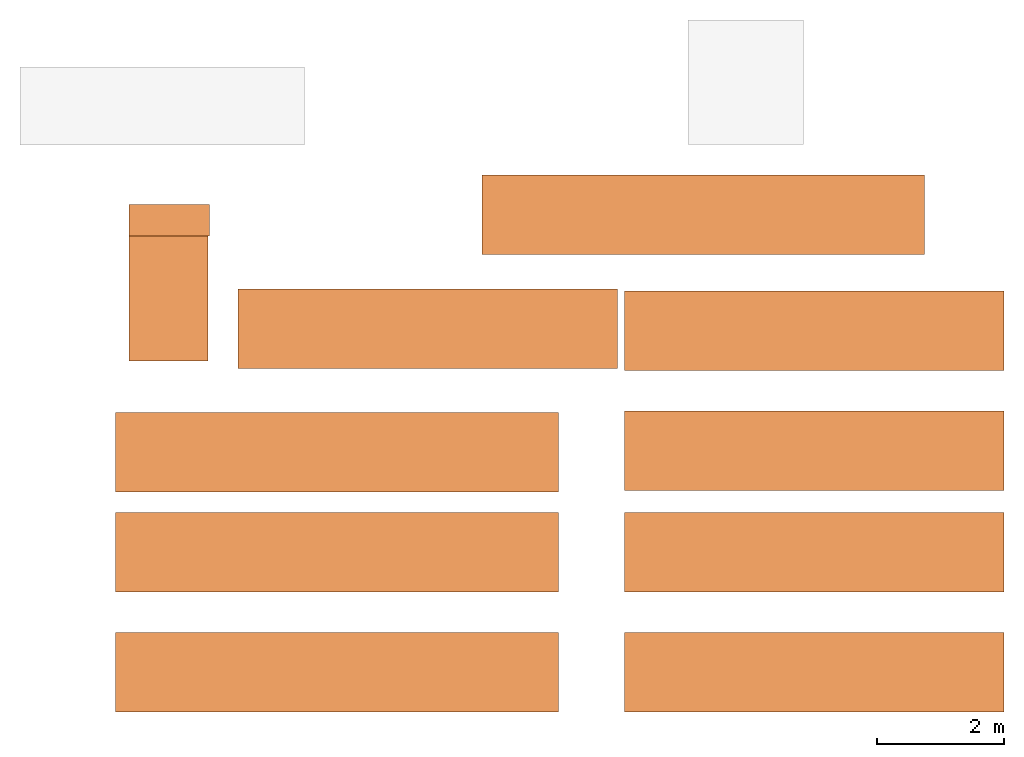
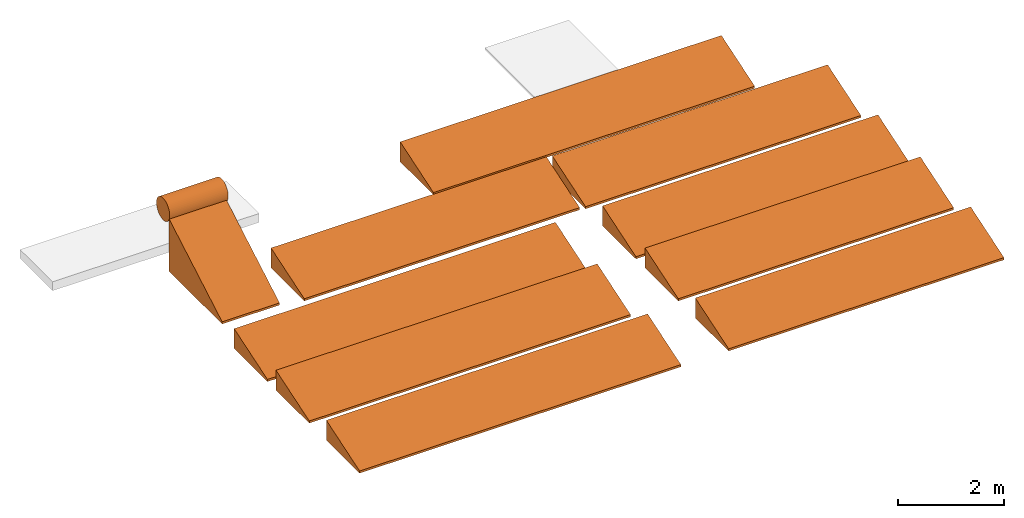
# One storey, part 2 of 2: 11 proxies.
"""IFC2X3 building model written with IfcOpenShell, lengths in millimetres."""

import ifcopenshell
import ifcopenshell.guid

model = None  # the IFC model being written
_history = None  # IfcOwnerHistory: only IFC2X3 demands one
_inside = {}  # id of a spatial element -> (the spatial element, [elements in it])
_under = {}  # id of a project, library or spatial element -> (it, [spatial elements below it])
_declared = {}  # id of a project -> (the project, [libraries it declares])
_typed = {}  # id of a type object -> (the type object, [elements of that type])
_made_of = {}  # id of a material, layer set ... -> (it, [elements and type objects made of it])


def new_model(schema):
    """Start an empty IFC model of exactly this schema.

    Asked for "IFC4X3", IfcOpenShell would pick the latest addendum, in which some entities
    have other attributes; the version numbers below select the first issue.
    IFC2X3 requires an IfcOwnerHistory on every rooted entity: one is made here for all.
    """
    global model, _history
    if schema == "IFC4X3":
        model = ifcopenshell.file(schema_version=(4, 3, 0, 0))
    else:
        model = ifcopenshell.file(schema=schema)
    _inside.clear()
    _under.clear()
    _declared.clear()
    _typed.clear()
    _made_of.clear()
    _history = None
    if model.schema == "IFC2X3":
        org = make("IfcOrganization", Name="unknown")
        user = make(
            "IfcPersonAndOrganization",
            ThePerson=make("IfcPerson", FamilyName="unknown"),
            TheOrganization=org,
        )
        app = make(
            "IfcApplication",
            ApplicationDeveloper=org,
            Version="unknown",
            ApplicationFullName="unknown",
            ApplicationIdentifier="unknown",
        )
        _history = make(
            "IfcOwnerHistory",
            OwningUser=user,
            OwningApplication=app,
            ChangeAction="ADDED",
            CreationDate=0,
        )
    return model


def make(cls, **values):
    """One entity of the class cls with the attributes given. An attribute that is None is left unset."""
    return model.create_entity(
        cls, **{name: value for name, value in values.items() if value is not None}
    )


def entity(cls, *values):
    """Any entity or typed value of the class cls, its attributes in the order of the schema. None: left unset."""
    e = model.create_entity(cls)
    for i, value in enumerate(values):
        if value is not None:
            e[i] = value
    return e


def rooted(cls, **values):
    """An entity with a GlobalId (a new one), such as an element, a storey or a relation."""
    return make(cls, GlobalId=ifcopenshell.guid.new(), OwnerHistory=_history, **values)


def si_unit(unit_type, name, prefix=None):
    """IfcSIUnit, for example si_unit("LENGTHUNIT", "METRE", prefix="MILLI")."""
    return make("IfcSIUnit", UnitType=unit_type, Prefix=prefix, Name=name)


def converted_unit(unit_type, name, factor, base, dimensions=None, offset=None):
    """IfcConversionBasedUnit, such as the inch: factor (a typed value) times the base unit."""
    return make(
        "IfcConversionBasedUnit"
        if offset is None
        else "IfcConversionBasedUnitWithOffset",
        ConversionOffset=offset,
        Dimensions=None
        if dimensions is None
        else entity("IfcDimensionalExponents", *dimensions),
        UnitType=unit_type,
        Name=name,
        ConversionFactor=make(
            "IfcMeasureWithUnit", ValueComponent=factor, UnitComponent=base
        ),
    )


def derived_unit(unit_type, elements):
    """IfcDerivedUnit: a product of units, each with its exponent."""
    return make(
        "IfcDerivedUnit",
        Elements=[
            make("IfcDerivedUnitElement", Unit=unit, Exponent=power)
            for unit, power in elements
        ],
        UnitType=unit_type,
    )


def assignment(units):
    """IfcUnitAssignment: the units of a project."""
    return None if units is None else make("IfcUnitAssignment", Units=units)


def point(xyz):
    """IfcCartesianPoint."""
    return None if xyz is None else make("IfcCartesianPoint", Coordinates=xyz)


def direction(xyz):
    """IfcDirection."""
    return None if xyz is None else make("IfcDirection", DirectionRatios=xyz)


def frame(location, z_axis=None, x_axis=None):
    """IfcAxis2Placement3D, a coordinate frame: its origin and axes. An axis left out is left unset."""
    return make(
        "IfcAxis2Placement3D",
        Location=point(location),
        Axis=direction(z_axis),
        RefDirection=direction(x_axis),
    )


def frame_2d(location, x_axis=None):
    """IfcAxis2Placement2D, a coordinate frame in the plane: its origin and x axis."""
    return make(
        "IfcAxis2Placement2D", Location=point(location), RefDirection=direction(x_axis)
    )


def origin():
    """The frame at (0, 0, 0) with its axes left unset."""
    return frame((0.0, 0.0, 0.0))


def place(relative_to, where):
    """IfcLocalPlacement: puts the frame where relative to a parent placement (None: the world)."""
    return make(
        "IfcLocalPlacement", PlacementRelTo=relative_to, RelativePlacement=where
    )


def context(
    kind, dimensions, precision=None, world=None, true_north=None, identifier=None
):
    """IfcGeometricRepresentationContext, for example the 3D "Model" context."""
    return make(
        "IfcGeometricRepresentationContext",
        ContextIdentifier=identifier,
        ContextType=kind,
        CoordinateSpaceDimension=dimensions,
        Precision=precision,
        WorldCoordinateSystem=world,
        TrueNorth=true_north,
    )


def subcontext(parent, identifier, kind, view, scale=None):
    """IfcGeometricRepresentationSubContext, for example "Body" below "Model"."""
    return make(
        "IfcGeometricRepresentationSubContext",
        ContextIdentifier=identifier,
        ContextType=kind,
        ParentContext=parent,
        TargetScale=scale,
        TargetView=view,
    )


def project(units=None, contexts=None):
    """IfcProject with its units and contexts."""
    return rooted(
        "IfcProject",
        Name="project",
        RepresentationContexts=contexts,
        UnitsInContext=assignment(units),
    )


def spatial(cls, under=None, at=None, **own):
    """A site, building, storey or space (cls), placed at a placement, below another one or the project."""
    s = rooted(cls, ObjectPlacement=at, **own)
    if under is not None:
        _under.setdefault(under.id(), (under, []))[1].append(s)
    return s


def polyline(points):
    """IfcPolyline through the points."""
    return make("IfcPolyline", Points=[point(p) for p in points])


def profile(cls, at=None, kind="AREA", **sizes):
    """A parametric profile (cls). Its sizes go by their IFC names, for example OverallWidth=200.0."""
    return make(cls, ProfileType=kind, Position=at, **sizes)


def circle(**sizes):
    """IfcCircleProfileDef."""
    return profile("IfcCircleProfileDef", **sizes)


def outline(outer, holes=None, kind="AREA"):
    """IfcArbitraryClosedProfileDef: a profile drawn as a closed curve; with holes, ...WithVoids."""
    if holes is None:
        return make("IfcArbitraryClosedProfileDef", ProfileType=kind, OuterCurve=outer)
    return make(
        "IfcArbitraryProfileDefWithVoids",
        ProfileType=kind,
        OuterCurve=outer,
        InnerCurves=holes,
    )


def extrude(swept, where, along, depth):
    """IfcExtrudedAreaSolid: the profile swept, set in the frame where, extruded along a direction by depth."""
    return make(
        "IfcExtrudedAreaSolid",
        SweptArea=swept,
        Position=where,
        ExtrudedDirection=direction(along),
        Depth=depth,
    )


def shape(context_of_items, identifier, shape_type, items):
    """IfcShapeRepresentation: the items that make up one representation, for example the "Body"."""
    return make(
        "IfcShapeRepresentation",
        ContextOfItems=context_of_items,
        RepresentationIdentifier=identifier,
        RepresentationType=shape_type,
        Items=items,
    )


def source(mapping_origin, context_of_items, identifier, shape_type, items):
    """IfcRepresentationMap: a shape defined once, which mapped items show again and again."""
    return make(
        "IfcRepresentationMap",
        MappingOrigin=mapping_origin,
        MappedRepresentation=shape(context_of_items, identifier, shape_type, items),
    )


def transform(
    local_origin,
    x_axis=None,
    y_axis=None,
    z_axis=None,
    scale=None,
    scale2=None,
    scale3=None,
    uniform=True,
):
    """IfcCartesianTransformationOperator3D, or its non-uniform kind. x_axis, y_axis, z_axis: its Axis1, 2, 3."""
    if uniform:
        return make(
            "IfcCartesianTransformationOperator3D",
            Axis1=direction(x_axis),
            Axis2=direction(y_axis),
            LocalOrigin=point(local_origin),
            Scale=scale,
            Axis3=direction(z_axis),
        )
    return make(
        "IfcCartesianTransformationOperator3DnonUniform",
        Axis1=direction(x_axis),
        Axis2=direction(y_axis),
        LocalOrigin=point(local_origin),
        Scale=scale,
        Axis3=direction(z_axis),
        Scale2=scale2,
        Scale3=scale3,
    )


def mapped(mapping_source, mapping_target):
    """IfcMappedItem: shows the shape of a source again, moved by a transform."""
    return make(
        "IfcMappedItem", MappingSource=mapping_source, MappingTarget=mapping_target
    )


def material(Name=None, Category=None):
    """IfcMaterial."""
    return make("IfcMaterial", Name=Name, Category=Category)


def made_of(thing, what):
    """Note that an element or type object is made of a material, layer set ...; save() writes the relation."""
    if what is not None:
        _made_of.setdefault(what.id(), (what, []))[1].append(thing)
    return thing


def type_object(cls, material=None, **own):
    """A type object (cls), such as IfcWallType, which elements share."""
    return made_of(rooted(cls, **own), material)


def type_shapes(of_type, sources):
    """Give a type object the sources (RepresentationMaps) that its elements show as mapped items."""
    of_type.RepresentationMaps = sources


def element(
    cls,
    number,
    at=None,
    inside=None,
    cuts=None,
    type_object=None,
    material=None,
    context=None,
    identifier="Body",
    shape_type=None,
    held_by="IfcProductDefinitionShape",
    body=None,
    shapes=None,
    **own,
):
    """One element of the class cls, such as IfcWall. Its Tag is "e" and its number.

    at: its placement. inside: the storey or other place that contains it. cuts: it is an
    opening in that element (IfcRelVoidsElement). A single representation is given by context,
    identifier, shape_type and body (its items); several are given by shapes. held_by: the class
    of the entity that holds the representations. save() writes the other relations.
    """
    e = rooted(cls, Tag="e%d" % number, ObjectPlacement=at, **own)
    if body is not None:
        shapes = [shape(context, identifier, shape_type, body)]
    if shapes is not None:
        e.Representation = make(held_by, Representations=shapes)
    if inside is not None:
        _inside.setdefault(inside.id(), (inside, []))[1].append(e)
    if cuts is not None:
        rooted(
            "IfcRelVoidsElement", RelatingBuildingElement=cuts, RelatedOpeningElement=e
        )
    if type_object is not None:
        _typed.setdefault(type_object.id(), (type_object, []))[1].append(e)
    return made_of(e, material)


def aggregate(whole, parts):
    """IfcRelAggregates: a whole, such as a stair, and the parts it consists of."""
    return rooted("IfcRelAggregates", RelatingObject=whole, RelatedObjects=parts)


def save(model, path):
    """Write the relations noted so far, then the file.

    IfcRelAggregates (storeys below a building ...), IfcRelContainedInSpatialStructure (elements
    in a storey), IfcRelDefinesByType, IfcRelAssociatesMaterial and IfcRelDeclares: one each for
    every whole, place, type object, material and project.
    """
    for whole, parts in _under.values():
        aggregate(whole, parts)
    for where, things in _inside.values():
        rooted(
            "IfcRelContainedInSpatialStructure",
            RelatedElements=things,
            RelatingStructure=where,
        )
    for kind, things in _typed.values():
        rooted("IfcRelDefinesByType", RelatedObjects=things, RelatingType=kind)
    for what, things in _made_of.values():
        rooted("IfcRelAssociatesMaterial", RelatedObjects=things, RelatingMaterial=what)
    for by, libraries in _declared.values():
        rooted("IfcRelDeclares", RelatingContext=by, RelatedDefinitions=libraries)
    model.write(path)


model = new_model("IFC2X3")

# Units and contexts
model_context = context("Model", 3, precision=0.01, world=origin(), true_north=direction((6.123031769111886e-17, 1.0)))
body_context = subcontext(model_context, "Body", "Model", "MODEL_VIEW")
ifc_project = project(units=[si_unit("LENGTHUNIT", "METRE", prefix="MILLI"), si_unit("AREAUNIT", "SQUARE_METRE"), si_unit("VOLUMEUNIT", "CUBIC_METRE"), converted_unit("PLANEANGLEUNIT", "DEGREE", entity("IfcRatioMeasure", 0.017453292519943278), si_unit("PLANEANGLEUNIT", "RADIAN"), dimensions=[0, 0, 0, 0, 0, 0, 0]), si_unit("MASSUNIT", "GRAM", prefix="KILO"), derived_unit("MASSDENSITYUNIT", [(si_unit("MASSUNIT", "GRAM", prefix="KILO"), 1), (si_unit("LENGTHUNIT", "METRE"), -3)]), derived_unit("MOMENTOFINERTIAUNIT", [(si_unit("LENGTHUNIT", "METRE"), 4)]), si_unit("TIMEUNIT", "SECOND"), si_unit("FREQUENCYUNIT", "HERTZ"), si_unit("THERMODYNAMICTEMPERATUREUNIT", "DEGREE_CELSIUS"), derived_unit("THERMALTRANSMITTANCEUNIT", [(si_unit("MASSUNIT", "GRAM", prefix="KILO"), 1), (si_unit("THERMODYNAMICTEMPERATUREUNIT", "KELVIN"), -1), (si_unit("TIMEUNIT", "SECOND"), -3)]), derived_unit("VOLUMETRICFLOWRATEUNIT", [(si_unit("LENGTHUNIT", "METRE"), 3), (si_unit("TIMEUNIT", "SECOND"), -1)]), derived_unit("MASSFLOWRATEUNIT", [(si_unit("MASSUNIT", "GRAM", prefix="KILO"), 1), (si_unit("TIMEUNIT", "SECOND"), -1)]), derived_unit("ROTATIONALFREQUENCYUNIT", [(si_unit("TIMEUNIT", "SECOND"), -1)]), si_unit("ELECTRICCURRENTUNIT", "AMPERE"), si_unit("ELECTRICVOLTAGEUNIT", "VOLT"), si_unit("POWERUNIT", "WATT"), si_unit("FORCEUNIT", "NEWTON", prefix="KILO"), si_unit("ILLUMINANCEUNIT", "LUX"), si_unit("LUMINOUSFLUXUNIT", "LUMEN"), si_unit("LUMINOUSINTENSITYUNIT", "CANDELA"), derived_unit("USERDEFINED", [(si_unit("MASSUNIT", "GRAM", prefix="KILO"), -1), (si_unit("LENGTHUNIT", "METRE"), -2), (si_unit("TIMEUNIT", "SECOND"), 3), (si_unit("LUMINOUSFLUXUNIT", "LUMEN"), 1)]), derived_unit("SOUNDPOWERUNIT", [(si_unit("MASSUNIT", "GRAM", prefix="KILO"), 1), (si_unit("LENGTHUNIT", "METRE"), 2), (si_unit("TIMEUNIT", "SECOND"), -3)]), derived_unit("SOUNDPRESSUREUNIT", [(si_unit("MASSUNIT", "GRAM", prefix="KILO"), 1), (si_unit("LENGTHUNIT", "METRE"), -1), (si_unit("TIMEUNIT", "SECOND"), -2)]), derived_unit("LINEARVELOCITYUNIT", [(si_unit("LENGTHUNIT", "METRE"), 1), (si_unit("TIMEUNIT", "SECOND"), -1)]), si_unit("PRESSUREUNIT", "PASCAL"), derived_unit("USERDEFINED", [(si_unit("LENGTHUNIT", "METRE"), -2), (si_unit("MASSUNIT", "GRAM", prefix="KILO"), 1), (si_unit("TIMEUNIT", "SECOND"), -2)]), derived_unit("LINEARFORCEUNIT", [(si_unit("MASSUNIT", "GRAM", prefix="KILO"), 1), (si_unit("LENGTHUNIT", "METRE"), 1), (si_unit("TIMEUNIT", "SECOND"), -2), (si_unit("LENGTHUNIT", "METRE"), -1)]), derived_unit("PLANARFORCEUNIT", [(si_unit("MASSUNIT", "GRAM", prefix="KILO"), 1), (si_unit("LENGTHUNIT", "METRE"), 1), (si_unit("TIMEUNIT", "SECOND"), -2), (si_unit("LENGTHUNIT", "METRE"), -2)])], contexts=[model_context])

# Site, building, storey
site_placement = place(None, origin())
site = spatial("IfcSite", under=ifc_project, at=site_placement, Name="Default", CompositionType="ELEMENT")
building_placement = place(site_placement, origin())
building = spatial("IfcBuilding", under=site, at=building_placement, CompositionType="ELEMENT")
storey_placement = place(building_placement, frame((0.0, 0.0, 6650.0)))
storey = spatial("IfcBuildingStorey", under=building, at=storey_placement, Name="Top", CompositionType="ELEMENT", Elevation=6650.0)

# Proxies
ifc_material = material(Name="<Unnamed>")
building_element_proxy_type_1 = type_object("IfcBuildingElementProxyType", Name="PV Inclined Modules v8:7 Module:7 Module : PV Inclined Modules v8:7 Module", PredefinedType="NOTDEFINED", material=ifc_material)
shared_shape_1 = source(origin(), body_context, "Body", "SweptSolid", [
    extrude(outline(polyline([(77.10600524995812, -628.5000000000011), (127.1060052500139, -628.5000000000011), (127.1060052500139, 628.5000000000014), (-331.3180157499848, 628.5000000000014), (77.10600524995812, -628.5000000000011)])), frame((-8757.355778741, -3054.7318677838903, 6777.1060052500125), z_axis=(1.0, 0.0, 0.0), x_axis=(0.0, 0.0, -1.0)), (0.0, 0.0, 1.0), 7000.000000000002),
])
type_shapes(building_element_proxy_type_1, [shared_shape_1])
proxy_1_placement = place(storey_placement, frame((0.0, 0.0, -6650.0)))
element("IfcBuildingElementProxy", 1, at=proxy_1_placement, inside=storey, type_object=building_element_proxy_type_1, material=ifc_material, Name="PV Inclined Modules v8:7 Module:7 Module : PV Inclined Modules v8:7 Module:7 Module:7 Module : PV Inclined Modules v8:7 Module : PV Inclined Modules v8:7 Module:7 Module : PV Inclined Modules v8:7 Module", ObjectType="PV Inclined Modules v8:7 Module:7 Module : PV Inclined Modules v8:7 Module:7 Module:7 Module : PV Inclined Modules v8:7 Module : PV Inclined Modules v8:7 Module:7 Module : PV Inclined Modules v8:7 Module", context=body_context, shape_type="MappedRepresentation", body=[
    mapped(shared_shape_1, transform((0.0, 0.0, 0.0), scale=1.0)),
])
building_element_proxy_type_2 = type_object("IfcBuildingElementProxyType", Name="PV Inclined Modules v8:6 Module:6 Module : PV Inclined Modules v8:6 Module", PredefinedType="NOTDEFINED", material=ifc_material)
shared_shape_2 = source(origin(), body_context, "Body", "SweptSolid", [
    extrude(outline(polyline([(77.10600524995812, -628.5000000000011), (127.1060052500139, -628.5000000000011), (127.1060052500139, 628.5000000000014), (-331.3180157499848, 628.5000000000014), (77.10600524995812, -628.5000000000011)])), frame((-716.542295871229, -3054.7318677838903, 6777.1060052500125), z_axis=(1.0, 0.0, 0.0), x_axis=(0.0, 0.0, -1.0)), (0.0, 0.0, 1.0), 6000.0),
])
type_shapes(building_element_proxy_type_2, [shared_shape_2])
proxy_2_placement = place(storey_placement, frame((0.0, 0.0, -6650.0)))
element("IfcBuildingElementProxy", 2, at=proxy_2_placement, inside=storey, type_object=building_element_proxy_type_2, material=ifc_material, Name="PV Inclined Modules v8:6 Module:6 Module : PV Inclined Modules v8:6 Module:6 Module:6 Module : PV Inclined Modules v8:6 Module : PV Inclined Modules v8:6 Module:6 Module : PV Inclined Modules v8:6 Module", ObjectType="PV Inclined Modules v8:6 Module:6 Module : PV Inclined Modules v8:6 Module:6 Module:6 Module : PV Inclined Modules v8:6 Module : PV Inclined Modules v8:6 Module:6 Module : PV Inclined Modules v8:6 Module", context=body_context, shape_type="MappedRepresentation", body=[
    mapped(shared_shape_2, transform((0.0, 0.0, 0.0), scale=1.0)),
])
building_element_proxy_type_3 = type_object("IfcBuildingElementProxyType", Name="PV Inclined Modules v8:7 Module:7 Module : PV Inclined Modules v8:7 Module", PredefinedType="NOTDEFINED", material=ifc_material)
shared_shape_3 = source(origin(), body_context, "Body", "SweptSolid", [
    extrude(outline(polyline([(77.1060052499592, -628.5000000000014), (127.1060052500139, -628.5000000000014), (127.1060052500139, 628.5000000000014), (-331.3180157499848, 628.5000000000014), (77.1060052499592, -628.5000000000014)])), frame((-8757.355778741, -1154.7318677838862, 6777.1060052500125), z_axis=(1.0, 0.0, 0.0), x_axis=(0.0, 0.0, -1.0)), (0.0, 0.0, 1.0), 7000.000000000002),
])
type_shapes(building_element_proxy_type_3, [shared_shape_3])
proxy_3_placement = place(storey_placement, frame((0.0, 0.0, -6650.0)))
element("IfcBuildingElementProxy", 3, at=proxy_3_placement, inside=storey, type_object=building_element_proxy_type_3, material=ifc_material, Name="PV Inclined Modules v8:7 Module:7 Module : PV Inclined Modules v8:7 Module:7 Module:7 Module : PV Inclined Modules v8:7 Module : PV Inclined Modules v8:7 Module:7 Module : PV Inclined Modules v8:7 Module", ObjectType="PV Inclined Modules v8:7 Module:7 Module : PV Inclined Modules v8:7 Module:7 Module:7 Module : PV Inclined Modules v8:7 Module : PV Inclined Modules v8:7 Module:7 Module : PV Inclined Modules v8:7 Module", context=body_context, shape_type="MappedRepresentation", body=[
    mapped(shared_shape_3, transform((0.0, 0.0, 0.0), scale=1.0)),
])
building_element_proxy_type_4 = type_object("IfcBuildingElementProxyType", Name="PV Inclined Modules v8:6 Module:6 Module : PV Inclined Modules v8:6 Module", PredefinedType="NOTDEFINED", material=ifc_material)
shared_shape_4 = source(origin(), body_context, "Body", "SweptSolid", [
    extrude(outline(polyline([(77.1060052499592, -628.5000000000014), (127.1060052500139, -628.5000000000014), (127.1060052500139, 628.5000000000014), (-331.3180157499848, 628.5000000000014), (77.1060052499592, -628.5000000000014)])), frame((-716.542295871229, -1154.7318677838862, 6777.1060052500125), z_axis=(1.0, 0.0, 0.0), x_axis=(0.0, 0.0, -1.0)), (0.0, 0.0, 1.0), 6000.0),
])
type_shapes(building_element_proxy_type_4, [shared_shape_4])
proxy_4_placement = place(storey_placement, frame((0.0, 0.0, -6650.0)))
element("IfcBuildingElementProxy", 4, at=proxy_4_placement, inside=storey, type_object=building_element_proxy_type_4, material=ifc_material, Name="PV Inclined Modules v8:6 Module:6 Module : PV Inclined Modules v8:6 Module:6 Module:6 Module : PV Inclined Modules v8:6 Module : PV Inclined Modules v8:6 Module:6 Module : PV Inclined Modules v8:6 Module", ObjectType="PV Inclined Modules v8:6 Module:6 Module : PV Inclined Modules v8:6 Module:6 Module:6 Module : PV Inclined Modules v8:6 Module : PV Inclined Modules v8:6 Module:6 Module : PV Inclined Modules v8:6 Module", context=body_context, shape_type="MappedRepresentation", body=[
    mapped(shared_shape_4, transform((0.0, 0.0, 0.0), scale=1.0)),
])
building_element_proxy_type_5 = type_object("IfcBuildingElementProxyType", Name="PV Inclined Modules v8:6 Module:6 Module : PV Inclined Modules v8:6 Module", PredefinedType="NOTDEFINED", material=ifc_material)
shared_shape_5 = source(origin(), body_context, "Body", "SweptSolid", [
    extrude(outline(polyline([(77.1060052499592, -628.5000000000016), (127.1060052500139, -628.5000000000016), (127.1060052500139, 628.5000000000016), (-331.3180157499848, 628.5000000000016), (77.1060052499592, -628.5000000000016)])), frame((-716.542295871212, 445.2681322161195, 6777.1060052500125), z_axis=(1.0, 0.0, 0.0), x_axis=(0.0, 0.0, -1.0)), (0.0, 0.0, 1.0), 6000.0),
])
type_shapes(building_element_proxy_type_5, [shared_shape_5])
proxy_5_placement = place(storey_placement, frame((0.0, 0.0, -6650.0)))
element("IfcBuildingElementProxy", 5, at=proxy_5_placement, inside=storey, type_object=building_element_proxy_type_5, material=ifc_material, Name="PV Inclined Modules v8:6 Module:6 Module : PV Inclined Modules v8:6 Module:6 Module:6 Module : PV Inclined Modules v8:6 Module : PV Inclined Modules v8:6 Module:6 Module : PV Inclined Modules v8:6 Module", ObjectType="PV Inclined Modules v8:6 Module:6 Module : PV Inclined Modules v8:6 Module:6 Module:6 Module : PV Inclined Modules v8:6 Module : PV Inclined Modules v8:6 Module:6 Module : PV Inclined Modules v8:6 Module", context=body_context, shape_type="MappedRepresentation", body=[
    mapped(shared_shape_5, transform((0.0, 0.0, 0.0), scale=1.0)),
])
building_element_proxy_type_6 = type_object("IfcBuildingElementProxyType", Name="PV Inclined Modules v8:7 Module:7 Module : PV Inclined Modules v8:7 Module", PredefinedType="NOTDEFINED", material=ifc_material)
shared_shape_6 = source(origin(), body_context, "Body", "SweptSolid", [
    extrude(outline(polyline([(77.10600524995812, -628.5000000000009), (127.1060052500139, -628.5000000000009), (127.1060052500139, 628.5000000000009), (-331.3180157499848, 628.5000000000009), (77.10600524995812, -628.5000000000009)])), frame((-8757.35577874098, 423.4847392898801, 6777.1060052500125), z_axis=(1.0, 0.0, 0.0), x_axis=(0.0, 0.0, -1.0)), (0.0, 0.0, 1.0), 7000.000000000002),
])
type_shapes(building_element_proxy_type_6, [shared_shape_6])
proxy_6_placement = place(storey_placement, frame((0.0, 0.0, -6650.0)))
element("IfcBuildingElementProxy", 6, at=proxy_6_placement, inside=storey, type_object=building_element_proxy_type_6, material=ifc_material, Name="PV Inclined Modules v8:7 Module:7 Module : PV Inclined Modules v8:7 Module:7 Module:7 Module : PV Inclined Modules v8:7 Module : PV Inclined Modules v8:7 Module:7 Module : PV Inclined Modules v8:7 Module", ObjectType="PV Inclined Modules v8:7 Module:7 Module : PV Inclined Modules v8:7 Module:7 Module:7 Module : PV Inclined Modules v8:7 Module : PV Inclined Modules v8:7 Module:7 Module : PV Inclined Modules v8:7 Module", context=body_context, shape_type="MappedRepresentation", body=[
    mapped(shared_shape_6, transform((0.0, 0.0, 0.0), scale=1.0)),
])
building_element_proxy_type_7 = type_object("IfcBuildingElementProxyType", Name="PV Inclined Modules v8:7 Module:7 Module : PV Inclined Modules v8:7 Module", PredefinedType="NOTDEFINED", material=ifc_material)
shared_shape_7 = source(origin(), body_context, "Body", "SweptSolid", [
    extrude(outline(polyline([(77.1060052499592, -628.5000000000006), (127.1060052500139, -628.5000000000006), (127.1060052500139, 628.5000000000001), (-331.3180157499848, 628.5000000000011), (77.1060052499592, -628.5000000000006)])), frame((-2970.528859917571, 4181.49408089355, 6777.1060052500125), z_axis=(1.0, 0.0, 0.0), x_axis=(0.0, 0.0, -1.0)), (0.0, 0.0, 1.0), 7000.000000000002),
])
type_shapes(building_element_proxy_type_7, [shared_shape_7])
proxy_7_placement = place(storey_placement, frame((0.0, 0.0, -6650.0)))
element("IfcBuildingElementProxy", 7, at=proxy_7_placement, inside=storey, type_object=building_element_proxy_type_7, material=ifc_material, Name="PV Inclined Modules v8:7 Module:7 Module : PV Inclined Modules v8:7 Module:7 Module:7 Module : PV Inclined Modules v8:7 Module : PV Inclined Modules v8:7 Module:7 Module : PV Inclined Modules v8:7 Module", ObjectType="PV Inclined Modules v8:7 Module:7 Module : PV Inclined Modules v8:7 Module:7 Module:7 Module : PV Inclined Modules v8:7 Module : PV Inclined Modules v8:7 Module:7 Module : PV Inclined Modules v8:7 Module", context=body_context, shape_type="MappedRepresentation", body=[
    mapped(shared_shape_7, transform((0.0, 0.0, 0.0), scale=1.0)),
])
building_element_proxy_type_8 = type_object("IfcBuildingElementProxyType", Name="PV Inclined Modules v8:6 Module:6 Module : PV Inclined Modules v8:6 Module", PredefinedType="NOTDEFINED", material=ifc_material)
shared_shape_8 = source(origin(), body_context, "Body", "SweptSolid", [
    extrude(outline(polyline([(77.10600524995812, -628.5000000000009), (127.1060052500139, -628.5000000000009), (127.1060052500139, 628.5000000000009), (-331.3180157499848, 628.5000000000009), (77.10600524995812, -628.5000000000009)])), frame((-716.5422958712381, 2345.26813221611, 6777.1060052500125), z_axis=(1.0, 0.0, 0.0), x_axis=(0.0, 0.0, -1.0)), (0.0, 0.0, 1.0), 6000.0),
])
type_shapes(building_element_proxy_type_8, [shared_shape_8])
proxy_8_placement = place(storey_placement, frame((0.0, 0.0, -6650.0)))
element("IfcBuildingElementProxy", 8, at=proxy_8_placement, inside=storey, type_object=building_element_proxy_type_8, material=ifc_material, Name="PV Inclined Modules v8:6 Module:6 Module : PV Inclined Modules v8:6 Module:6 Module:6 Module : PV Inclined Modules v8:6 Module : PV Inclined Modules v8:6 Module:6 Module : PV Inclined Modules v8:6 Module", ObjectType="PV Inclined Modules v8:6 Module:6 Module : PV Inclined Modules v8:6 Module:6 Module:6 Module : PV Inclined Modules v8:6 Module : PV Inclined Modules v8:6 Module:6 Module : PV Inclined Modules v8:6 Module", context=body_context, shape_type="MappedRepresentation", body=[
    mapped(shared_shape_8, transform((0.0, 0.0, 0.0), scale=1.0)),
])
building_element_proxy_type_9 = type_object("IfcBuildingElementProxyType", Name="PV Inclined Modules v8:6 Module:6 Module : PV Inclined Modules v8:6 Module", PredefinedType="NOTDEFINED", material=ifc_material)
shared_shape_9 = source(origin(), body_context, "Body", "SweptSolid", [
    extrude(outline(polyline([(77.1060052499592, -628.5000000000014), (127.1060052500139, -628.5000000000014), (127.1060052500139, 628.5000000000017), (-331.3180157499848, 628.5000000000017), (77.1060052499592, -628.5000000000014)])), frame((-6828.15368522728, 2374.92138338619, 6777.1060052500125), z_axis=(1.0, 0.0, 0.0), x_axis=(0.0, 0.0, -1.0)), (0.0, 0.0, 1.0), 6000.0),
])
type_shapes(building_element_proxy_type_9, [shared_shape_9])
proxy_9_placement = place(storey_placement, frame((0.0, 0.0, -6650.0)))
element("IfcBuildingElementProxy", 9, at=proxy_9_placement, inside=storey, type_object=building_element_proxy_type_9, material=ifc_material, Name="PV Inclined Modules v8:6 Module:6 Module : PV Inclined Modules v8:6 Module:6 Module:6 Module : PV Inclined Modules v8:6 Module : PV Inclined Modules v8:6 Module:6 Module : PV Inclined Modules v8:6 Module", ObjectType="PV Inclined Modules v8:6 Module:6 Module : PV Inclined Modules v8:6 Module:6 Module:6 Module : PV Inclined Modules v8:6 Module : PV Inclined Modules v8:6 Module:6 Module : PV Inclined Modules v8:6 Module", context=body_context, shape_type="MappedRepresentation", body=[
    mapped(shared_shape_9, transform((0.0, 0.0, 0.0), scale=1.0)),
])
building_element_proxy_type_10 = type_object("IfcBuildingElementProxyType", Name="Solar Collector v1:Custom Type:Custom Type : Solar Collector v1:Custom Type", PredefinedType="NOTDEFINED", material=ifc_material)
shared_shape_10 = source(origin(), body_context, "Body", "SweptSolid", [
    extrude(outline(polyline([(263.67515378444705, -1000.0), (313.6751154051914, -1000.0), (313.6751154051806, 1000.0), (-891.0253845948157, 1000.0), (263.67515378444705, -1000.0)])), frame((-8549.61349006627, 2864.33381999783, 6963.675115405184), z_axis=(1.0, 0.0, 0.0), x_axis=(0.0, 0.0, -1.0)), (0.0, 0.0, 1.0), 1249.9999999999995),
])
type_shapes(building_element_proxy_type_10, [shared_shape_10])
proxy_10_placement = place(storey_placement, frame((0.0, 0.0, -6650.0)))
element("IfcBuildingElementProxy", 10, at=proxy_10_placement, inside=storey, type_object=building_element_proxy_type_10, material=ifc_material, Name="Solar Collector v1:Custom Type:Custom Type : Solar Collector v1:Custom Type:Custom Type:Custom Type : Solar Collector v1:Custom Type : Solar Collector v1:Custom Type:Custom Type : Solar Collector v1:Custom Type", ObjectType="Solar Collector v1:Custom Type:Custom Type : Solar Collector v1:Custom Type:Custom Type:Custom Type : Solar Collector v1:Custom Type : Solar Collector v1:Custom Type:Custom Type : Solar Collector v1:Custom Type", context=body_context, shape_type="MappedRepresentation", body=[
    mapped(shared_shape_10, transform((0.0, 0.0, 0.0), scale=1.0)),
])
building_element_proxy_type_11 = type_object("IfcBuildingElementProxyType", Name="Water Heater Storage v1:Water Heater Storage v1:Water Heater Storage v1 : Water Heater Storage v1:Water Heater Storage v1", PredefinedType="NOTDEFINED", material=ifc_material)
shared_shape_11 = source(origin(), body_context, "Body", "SweptSolid", [
    extrude(circle(Radius=250.00000000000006, at=frame_2d((0.0, -1.0828671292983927e-12), x_axis=(1.0, 0.0))), frame((-8549.61349006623, 4093.3635481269, 7950.0), z_axis=(1.0, 0.0, 0.0), x_axis=(0.0, 1.0, 0.0)), (0.0, 0.0, 1.0), 1275.0000000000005),
])
type_shapes(building_element_proxy_type_11, [shared_shape_11])
proxy_11_placement = place(storey_placement, frame((0.0, 0.0, -6650.0)))
element("IfcBuildingElementProxy", 11, at=proxy_11_placement, inside=storey, type_object=building_element_proxy_type_11, material=ifc_material, context=body_context, shape_type="MappedRepresentation", body=[
    mapped(shared_shape_11, transform((0.0, 0.0, 0.0), scale=1.0)),
])

save(model, "model.ifc")
